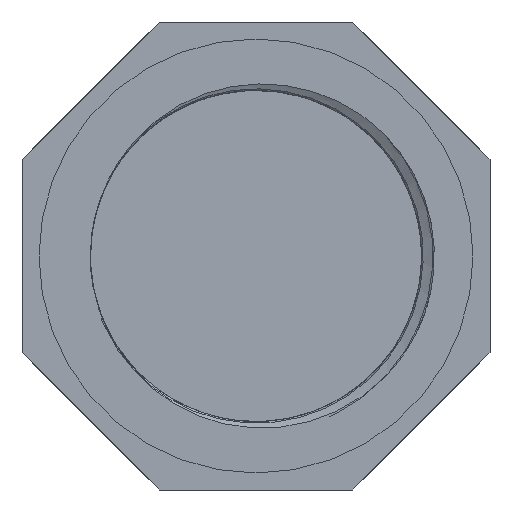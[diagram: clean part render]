
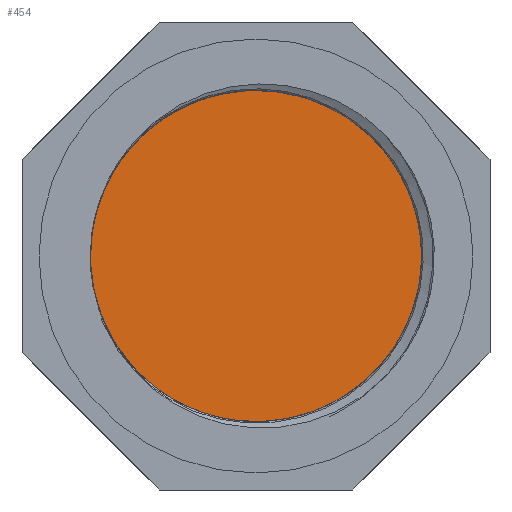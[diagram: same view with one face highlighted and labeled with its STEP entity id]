
A CAD part, front view. The second image highlights one B-rep face of the part: STEP entity #454.
In plain terms, the highlighted planar face has unit normal (0, -1, 0).
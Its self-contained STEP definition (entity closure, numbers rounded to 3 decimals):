
#26=PLANE('',#485);
#123=FACE_OUTER_BOUND('',#154,.T.);
#154=EDGE_LOOP('',(#344));
#184=CIRCLE('',#484,19.476);
#220=VERTEX_POINT('',#4059);
#267=EDGE_CURVE('',#220,#220,#184,.T.);
#344=ORIENTED_EDGE('',*,*,#267,.F.);
#454=ADVANCED_FACE('',(#123),#26,.F.);
#484=AXIS2_PLACEMENT_3D('',#4060,#535,#536);
#485=AXIS2_PLACEMENT_3D('',#4061,#537,#538);
#535=DIRECTION('center_axis',(0.,1.,0.));
#536=DIRECTION('ref_axis',(-1.,0.,0.));
#537=DIRECTION('center_axis',(0.,1.,0.));
#538=DIRECTION('ref_axis',(0.,0.,1.));
#4059=CARTESIAN_POINT('',(19.476,27.,0.));
#4060=CARTESIAN_POINT('Origin',(0.,27.,0.));
#4061=CARTESIAN_POINT('Origin',(0.,27.,0.));
